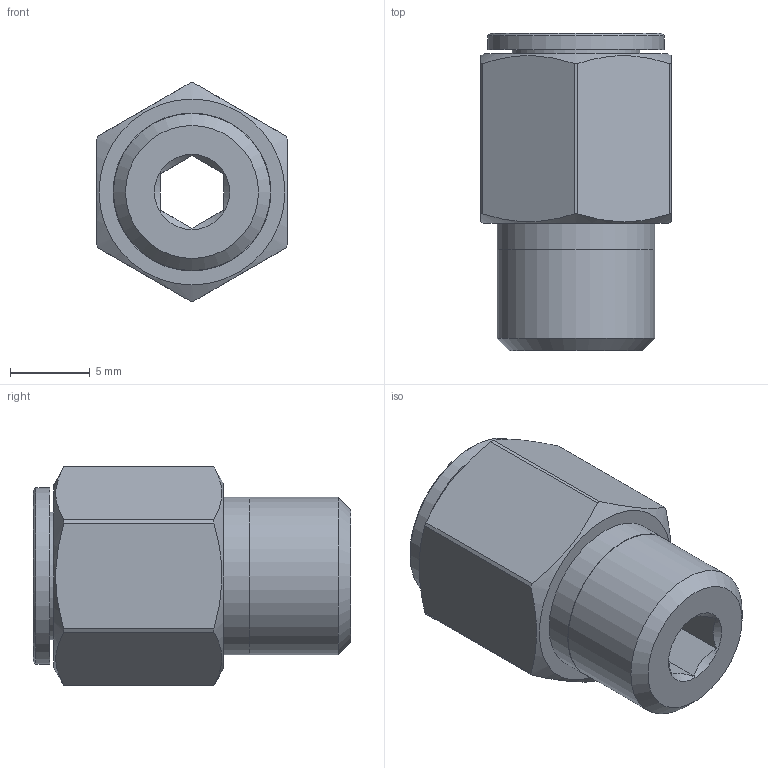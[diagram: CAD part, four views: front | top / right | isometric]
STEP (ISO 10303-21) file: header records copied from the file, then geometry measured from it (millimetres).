
FILE_DESCRIPTION(/* description */ (''),/* implementation_level */ '2;1');
FILE_NAME(/* name */ 'C:/Users/drich/Desktop/CO-6-01MOF v1.step',/* time_stamp */ '2020-02-10T19:57:54-06:00',/* author */ (''),/* organization */ (''),/* preprocessor_version */ 'ST-DEVELOPER v18',/* originating_system */ 'Autodesk Translation Framework v8.12.0.6',/* authorisation */ '');
FILE_SCHEMA (('AUTOMOTIVE_DESIGN { 1 0 10303 214 3 1 1 }'));
Length unit declared in the file: inch
Products named in the file (1): CO-6-01MOF
Bounding box: 11.99 x 19.94 x 13.72 mm (x, y, z)
Volume: 1557.1 mm3; surface area: 1663 mm2
Topology: 2 solids, 2 shells, 38 faces, 104 edges, 74 vertices
Faces by surface type: plane 20, cylinder 12, cone 6
Full cylindrical faces by diameter (mm): 6.223 x1, 8.001 x1, 8.992 x1, 9.881 x1, 9.931 x1, 11.1 x1
Entity records: 1276 total; most frequent: CARTESIAN_POINT 265, ORIENTED_EDGE 208, DIRECTION 202, EDGE_CURVE 104, AXIS2_PLACEMENT_3D 83, VERTEX_POINT 74, EDGE_LOOP 46, CIRCLE 44
